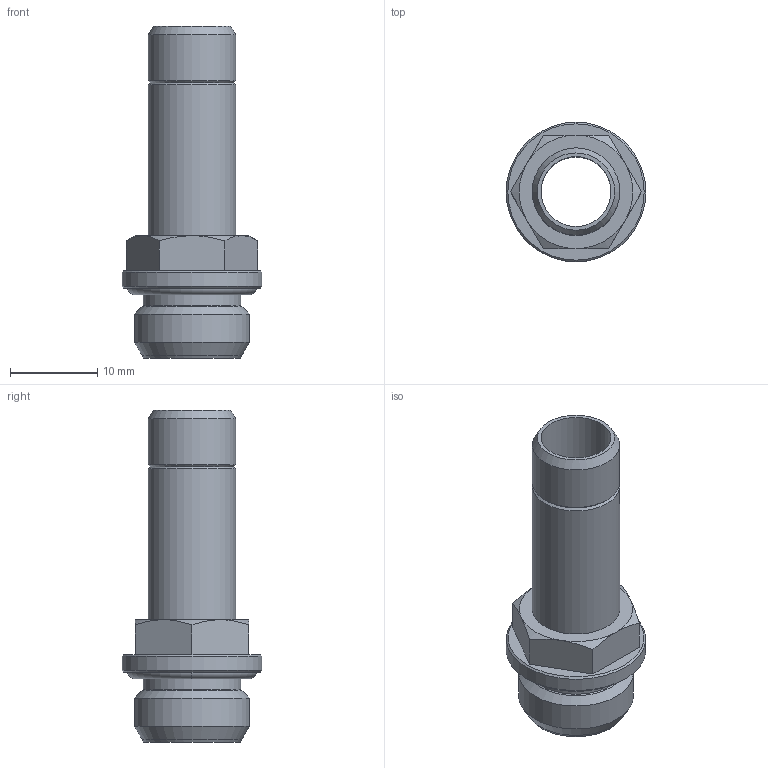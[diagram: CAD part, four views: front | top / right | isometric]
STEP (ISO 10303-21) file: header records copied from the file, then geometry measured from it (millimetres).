
FILE_DESCRIPTION(('Bauteilbeschreibung','HiCAD-Model','HiCAD-STEP-TRANSLATION','Bauteilbeschreibung'),'2;1');
FILE_NAME('B:/ABGLEICH/ZEICHNUNGEN/STEP FÜR INTERNET/STEP/IPSO 06/200612_IPSO_06_10_1-4.STP','2012-03-01T15:11:50+00:00',('Konstrukteur'),('Konstrukteur Firma GmbH'),' HiCAD neXt 2008, Step 3.1.1401.2J ','HiCAD neXt 2008','confidential');
FILE_SCHEMA(('AUTOMOTIVE_DESIGN { 1 2 10303 214 0 1 1 1 }'));
Length unit declared in the file: millimetre
Products named in the file (5): A00612_IPSO_06_10_1_4; A00612; A006120; G 1_4; OR 11_11X1_78
Assembly tree (4 placements, depth 3):
  A00612_IPSO_06_10_1_4
    A00612
    A006120
      G 1_4
    OR 11_11X1_78
Bounding box: 16 x 16 x 38 mm (x, y, z)
Volume: 1930.7 mm3; surface area: 3266.4 mm2
Topology: 3 solids, 3 shells, 43 faces, 94 edges, 57 vertices
Faces by surface type: cone 17, plane 12, cylinder 8, torus 6
Full cylindrical faces by diameter (mm): 8 x1, 10 x2, 11.2 x1, 11.445 x2, 13.157 x1, 16 x1
Entity records: 1394 total; most frequent: DIRECTION 194, CARTESIAN_POINT 187, ORIENTED_EDGE 128, AXIS2_PLACEMENT_3D 91, EDGE_LOOP 70, EDGE_CURVE 64, COLOUR_RGB 59, PRESENTATION_STYLE_ASSIGNMENT 59
